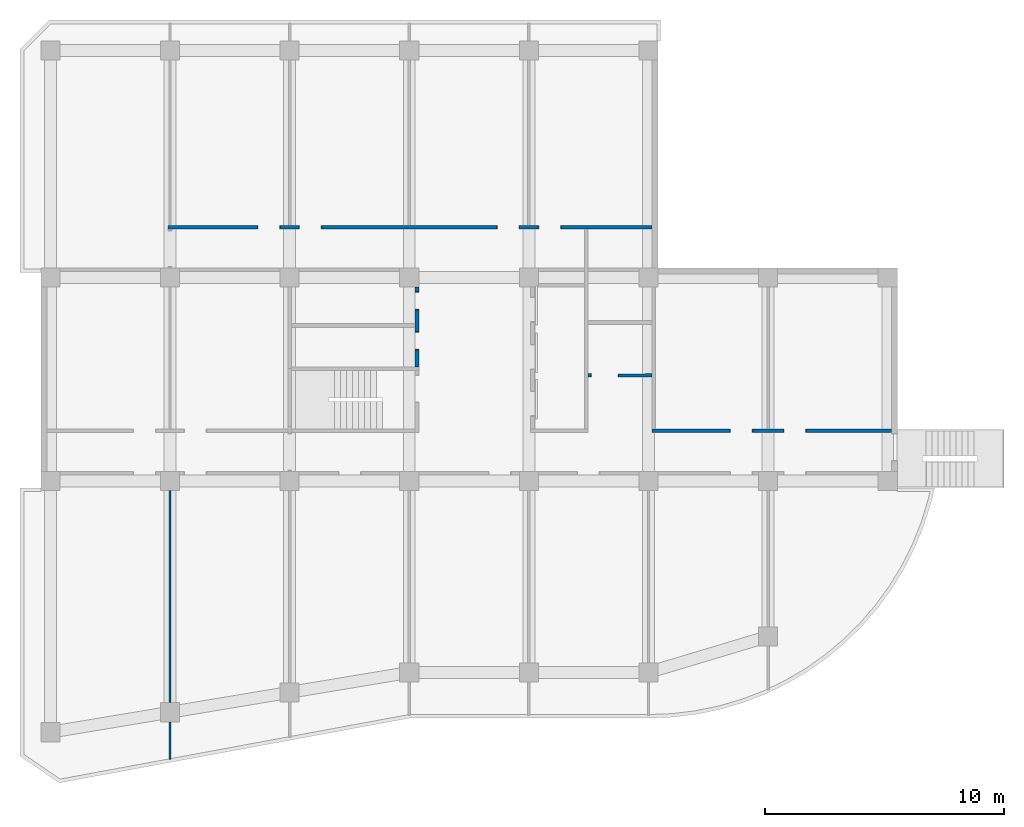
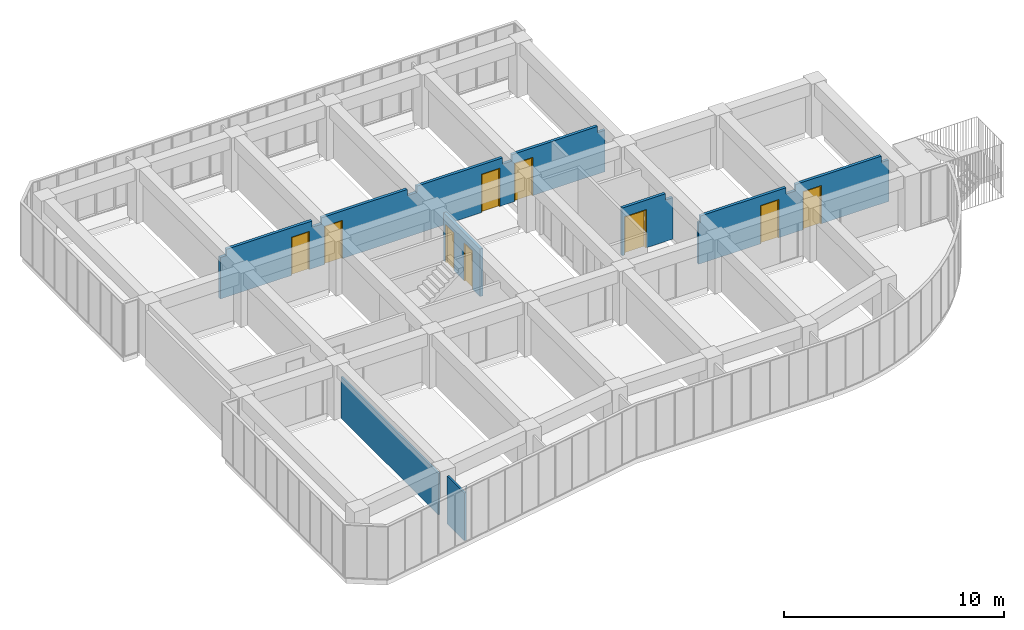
# One storey, part 4 of 5: 9 doors, 5 walls, 9 openings.
"""IFC2X3 building model written with IfcOpenShell, lengths in millimetres."""

from ifc_helpers import new_model, entity, si_unit, converted_unit, derived_unit, money_unit, direction, frame, origin_with_axes, place, context, subcontext, project, spatial, open_shell, faceted_brep, surface_model, source, transform, mapped, material, type_object, element, fill, save


model = new_model("IFC2X3")

# Units and contexts
model_context = context("Model", 3, precision=0.01, world=origin_with_axes(), true_north=direction((0.0, 1.0)))
body_context = subcontext(model_context, "Body", "Model", "MODEL_VIEW")
ifc_project = project(units=[si_unit("LENGTHUNIT", "METRE", prefix="MILLI"), si_unit("AREAUNIT", "SQUARE_METRE"), si_unit("VOLUMEUNIT", "CUBIC_METRE"), converted_unit("PLANEANGLEUNIT", "DEGREE", entity("IfcPlaneAngleMeasure", 0.0174532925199), si_unit("PLANEANGLEUNIT", "RADIAN"), dimensions=[0, 0, 0, 0, 0, 0, 0]), si_unit("SOLIDANGLEUNIT", "STERADIAN"), money_unit("JPY"), converted_unit("TIMEUNIT", "Year", entity("IfcTimeMeasure", 31556926.0), si_unit("TIMEUNIT", "SECOND"), dimensions=[0, 0, 1, 0, 0, 0, 0]), si_unit("MASSUNIT", "GRAM", prefix="KILO"), si_unit("THERMODYNAMICTEMPERATUREUNIT", "DEGREE_CELSIUS"), si_unit("LUMINOUSINTENSITYUNIT", "LUMEN"), si_unit("ENERGYUNIT", "JOULE", prefix="MEGA"), derived_unit("THERMALCONDUCTANCEUNIT", [(si_unit("POWERUNIT", "WATT"), 1), (si_unit("LENGTHUNIT", "METRE"), -1), (si_unit("THERMODYNAMICTEMPERATUREUNIT", "KELVIN"), -1)]), derived_unit("SPECIFICHEATCAPACITYUNIT", [(si_unit("ENERGYUNIT", "JOULE"), 1), (si_unit("MASSUNIT", "GRAM", prefix="KILO"), -1), (si_unit("THERMODYNAMICTEMPERATUREUNIT", "KELVIN"), -1)]), derived_unit("MASSDENSITYUNIT", [(si_unit("MASSUNIT", "GRAM", prefix="KILO"), 1), (si_unit("VOLUMEUNIT", "CUBIC_METRE"), -1)])], contexts=[model_context])

# Site, building, storey
site_placement = place(None, origin_with_axes())
site = spatial("IfcSite", under=ifc_project, at=site_placement, Name="サイト", CompositionType="ELEMENT")
building_placement = place(site_placement, origin_with_axes())
building = spatial("IfcBuilding", under=site, at=building_placement, Name="建築", CompositionType="ELEMENT")
storey_placement = place(building_placement, frame((0.0, 0.0, 9000.0), z_axis=(0.0, 0.0, 1.0), x_axis=(1.0, 0.0, 0.0)))
storey = spatial("IfcBuildingStorey", under=building, at=storey_placement, Name="4FL", CompositionType="ELEMENT", Elevation=9000.0)

# Wall, openings, doors
ifc_material_1 = material(Name="コンクリート")
wall_type_1 = type_object("IfcWallType", Name="コンクリート 150", PredefinedType="NOTDEFINED")
wall_1_placement = place(storey_placement, frame((25275.0000022, 10600.0, 0.0), z_axis=(0.0, 0.0, 1.0), x_axis=(-1.0, 0.0, 0.0)))
wall_1 = element("IfcWall", 1, at=wall_1_placement, inside=storey, type_object=wall_type_1, material=ifc_material_1, Name="4FLW9", context=body_context, shape_type="Brep", body=[
    faceted_brep([(16620.0000022, -75.0, 2130.0), (16620.0000022, -75.0, 0.0), (20350.0000022, -75.0, 0.0), (20350.0000022, -75.0, 2300.0), (20025.0000022, -75.0, 2300.0), (20025.0000022, -75.0, 2650.0), (15525.0000022, -75.0, 2650.0), (15525.0000022, -75.0, 2300.0), (15025.0000022, -75.0, 2300.0), (15025.0000022, -75.0, 2650.0), (10525.0000022, -75.0, 2650.0), (10525.0000022, -75.0, 2300.0), (10025.0000022, -75.0, 2300.0), (10025.0000022, -75.0, 2650.0), (5525.00000218, -75.0, 2650.0), (5525.00000218, -75.0, 2300.0), (5025.00000218, -75.0, 2300.0), (5025.00000218, -75.0, 2650.0), (525.000002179, -75.0, 2650.0), (525.000002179, -75.0, 2300.0), (125.0, -75.0, 2300.0), (125.0, -75.0, 0.0), (3930.00000218, -75.0, 0.0), (3930.00000218, -75.0, 2130.0), (4890.00000218, -75.0, 2130.0), (4890.00000218, -75.0, 0.0), (5660.00000218, -75.0, 0.0), (5660.00000218, -75.0, 2130.0), (6620.00000218, -75.0, 2130.0), (6620.00000218, -75.0, 0.0), (13930.0000022, -75.0, 0.0), (13930.0000022, -75.0, 2130.0), (14890.0000022, -75.0, 2130.0), (14890.0000022, -75.0, 0.0), (15660.0000022, -75.0, 0.0), (15660.0000022, -75.0, 2130.0), (16620.0000022, 75.0, 2130.0), (16620.0000022, 75.0, 0.0), (20350.0000022, 75.0, 0.0), (20350.0000022, 75.0, 2300.0), (20025.0000022, 75.0, 2300.0), (20025.0000022, 75.0, 2650.0), (15525.0000022, 75.0, 2650.0), (15525.0000022, 75.0, 2300.0), (15025.0000022, 75.0, 2300.0), (15025.0000022, 75.0, 2650.0), (10525.0000022, 75.0, 2650.0), (10525.0000022, 75.0, 2300.0), (10025.0000022, 75.0, 2300.0), (10025.0000022, 75.0, 2650.0), (5525.00000218, 75.0, 2650.0), (5525.00000218, 75.0, 2300.0), (5025.00000218, 75.0, 2300.0), (5025.00000218, 75.0, 2650.0), (525.000002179, 75.0, 2650.0), (525.000002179, 75.0, 2300.0), (125.0, 75.0, 2300.0), (125.0, 75.0, 0.0), (3930.00000218, 75.0, 0.0), (3930.00000218, 75.0, 2130.0), (4890.00000218, 75.0, 2130.0), (4890.00000218, 75.0, 0.0), (5660.00000218, 75.0, 0.0), (5660.00000218, 75.0, 2130.0), (6620.00000218, 75.0, 2130.0), (6620.00000218, 75.0, 0.0), (13930.0000022, 75.0, 0.0), (13930.0000022, 75.0, 2130.0), (14890.0000022, 75.0, 2130.0), (14890.0000022, 75.0, 0.0), (15660.0000022, 75.0, 0.0), (15660.0000022, 75.0, 2130.0)], [[[0, 1, 2, 3, 4, 5, 6, 7, 8, 9, 10, 11, 12, 13, 14, 15, 16, 17, 18, 19, 20, 21, 22, 23, 24, 25, 26, 27, 28, 29, 30, 31, 32, 33, 34, 35]], [[1, 0, 36, 37]], [[1, 37, 38, 2]], [[38, 39, 3, 2]], [[40, 4, 3, 39]], [[40, 41, 5, 4]], [[6, 5, 41, 42]], [[43, 7, 6, 42]], [[44, 8, 7, 43]], [[44, 45, 9, 8]], [[10, 9, 45, 46]], [[47, 11, 10, 46]], [[48, 12, 11, 47]], [[48, 49, 13, 12]], [[14, 13, 49, 50]], [[51, 15, 14, 50]], [[52, 16, 15, 51]], [[52, 53, 17, 16]], [[53, 54, 18, 17]], [[55, 19, 18, 54]], [[55, 56, 20, 19]], [[21, 20, 56, 57]], [[21, 57, 58, 22]], [[58, 59, 23, 22]], [[59, 60, 24, 23]], [[60, 61, 25, 24]], [[62, 26, 25, 61]], [[63, 27, 26, 62]], [[64, 28, 27, 63]], [[65, 29, 28, 64]], [[30, 29, 65, 66]], [[30, 66, 67, 31]], [[31, 67, 68, 32]], [[32, 68, 69, 33]], [[70, 34, 33, 69]], [[35, 34, 70, 71]], [[0, 35, 71, 36]], [[71, 70, 69, 68, 67, 66, 65, 64, 63, 62, 61, 60, 59, 58, 57, 56, 55, 54, 53, 52, 51, 50, 49, 48, 47, 46, 45, 44, 43, 42, 41, 40, 39, 38, 37, 36]]]),
])
opening_1_placement = place(wall_1_placement, frame((6140.00000218, 0.0, 0.0), z_axis=(0.0, 0.0, 1.0), x_axis=(1.0, 0.0, 0.0)))
opening_1 = element("IfcOpeningElement", 2, at=opening_1_placement, cuts=wall_1, Name="4FLSD3", context=body_context, shape_type="Brep", body=[
    faceted_brep([(480.0, 160.0, 0.0), (480.0, 160.0, 2130.0), (480.0, -160.0, 2130.0), (480.0, -160.0, 0.0), (-480.0, 160.0, 0.0), (-480.0, 160.0, 2130.0), (-480.0, -160.0, 2130.0), (-480.0, -160.0, 0.0)], [[[0, 1, 2, 3]], [[0, 4, 5, 1]], [[1, 5, 6, 2]], [[3, 2, 6, 7]], [[4, 0, 3, 7]], [[5, 4, 7, 6]]]),
])
opening_2_placement = place(wall_1_placement, frame((4410.00000218, 0.0, 0.0), z_axis=(0.0, 0.0, 1.0), x_axis=(1.0, 0.0, 0.0)))
opening_2 = element("IfcOpeningElement", 3, at=opening_2_placement, cuts=wall_1, Name="4FLSD4", context=body_context, shape_type="Brep", body=[
    faceted_brep([(-480.0, -160.0, 0.0), (-480.0, -160.0, 2130.0), (-480.0, 160.0, 2130.0), (-480.0, 160.0, 0.0), (480.0, -160.0, 0.0), (480.0, -160.0, 2130.0), (480.0, 160.0, 2130.0), (480.0, 160.0, 0.0)], [[[0, 1, 2, 3]], [[0, 4, 5, 1]], [[1, 5, 6, 2]], [[3, 2, 6, 7]], [[4, 0, 3, 7]], [[5, 4, 7, 6]]]),
])
opening_3_placement = place(wall_1_placement, frame((14410.0000022, 0.0, 0.0), z_axis=(0.0, 0.0, 1.0), x_axis=(1.0, 0.0, 0.0)))
opening_3 = element("IfcOpeningElement", 4, at=opening_3_placement, cuts=wall_1, Name="4FLSD5", context=body_context, shape_type="Brep", body=[
    faceted_brep([(-480.0, -160.0, 0.0), (-480.0, -160.0, 2130.0), (-480.0, 160.0, 2130.0), (-480.0, 160.0, 0.0), (480.0, -160.0, 0.0), (480.0, -160.0, 2130.0), (480.0, 160.0, 2130.0), (480.0, 160.0, 0.0)], [[[0, 1, 2, 3]], [[0, 4, 5, 1]], [[1, 5, 6, 2]], [[3, 2, 6, 7]], [[4, 0, 3, 7]], [[5, 4, 7, 6]]]),
])
opening_4_placement = place(wall_1_placement, frame((16140.0000022, 0.0, 0.0), z_axis=(0.0, 0.0, 1.0), x_axis=(1.0, 0.0, 0.0)))
opening_4 = element("IfcOpeningElement", 5, at=opening_4_placement, cuts=wall_1, Name="4FLSD6", context=body_context, shape_type="Brep", body=[
    faceted_brep([(480.0, 160.0, 0.0), (480.0, 160.0, 2130.0), (480.0, -160.0, 2130.0), (480.0, -160.0, 0.0), (-480.0, 160.0, 0.0), (-480.0, 160.0, 2130.0), (-480.0, -160.0, 2130.0), (-480.0, -160.0, 0.0)], [[[0, 1, 2, 3]], [[0, 4, 5, 1]], [[1, 5, 6, 2]], [[3, 2, 6, 7]], [[4, 0, 3, 7]], [[5, 4, 7, 6]]]),
])
door_style_1 = type_object("IfcDoorStyle", Name="片開き戸", ConstructionType="NOTDEFINED", OperationType="NOTDEFINED", ParameterTakesPrecedence=False, Sizeable=False)
shared_shape_1 = source(origin_with_axes(), body_context, "Body", "SurfaceModel", [
    surface_model("IfcShellBasedSurfaceModel", [(-450.0, 85.0, 0.0), (-450.0, 85.0, 2100.0), (450.0, 85.0, 2100.0), (450.0, 85.0, 0.0)], [open_shell([[[0, 1, 2, 3]]])]),
    surface_model("IfcShellBasedSurfaceModel", [(-480.0, 160.0, 0.0), (-480.0, 160.0, 2130.0), (480.0, 160.0, 2130.0), (480.0, 160.0, 0.0), (450.0, 160.0, 0.0), (450.0, 160.0, 2100.0), (-450.0, 160.0, 2100.0), (-450.0, 160.0, 0.0)], [open_shell([[[0, 1, 2, 3, 4, 5, 6, 7]]])]),
    surface_model("IfcShellBasedSurfaceModel", [(-480.0, 10.0, 0.0), (-480.0, 10.0, 2130.0), (480.0, 10.0, 2130.0), (480.0, 10.0, 0.0), (450.0, 10.0, 0.0), (450.0, 10.0, 2100.0), (-450.0, 10.0, 2100.0), (-450.0, 10.0, 0.0)], [open_shell([[[0, 1, 2, 3, 4, 5, 6, 7]]])]),
    surface_model("IfcShellBasedSurfaceModel", [(-450.0, 160.0, 0.0), (-450.0, 160.0, 2100.0), (-450.0, 10.0, 2100.0), (-450.0, 10.0, 0.0), (450.0, 160.0, 2100.0), (450.0, 10.0, 2100.0), (-480.0, 160.0, 0.0), (-480.0, 10.0, 0.0), (450.0, 160.0, 0.0), (450.0, 10.0, 0.0), (-480.0, 160.0, 2130.0), (-480.0, 10.0, 2130.0), (480.0, 160.0, 0.0), (480.0, 10.0, 0.0), (480.0, 160.0, 2130.0), (480.0, 10.0, 2130.0)], [open_shell([[[0, 1, 2, 3]], [[1, 4, 5, 2]], [[6, 0, 3, 7]], [[4, 8, 9, 5]], [[10, 6, 7, 11]], [[8, 12, 13, 9]], [[14, 10, 11, 15]], [[12, 14, 15, 13]]])]),
])
door_1_placement = place(opening_4_placement, frame((450.0, 0.0, 0.0), z_axis=(0.0, 0.0, 1.0), x_axis=(-1.0, 0.0, 0.0)))
door_1 = element("IfcDoor", 6, at=door_1_placement, inside=storey, type_object=door_style_1, Name="4FLSD6", OverallHeight=2165.0, OverallWidth=1030.0, context=body_context, shape_type="MappedRepresentation", body=[
    mapped(shared_shape_1, transform((450.0, -85.0, 0.0))),
])
fill(opening_4, door_1)
shared_shape_2 = source(origin_with_axes(), body_context, "Body", "SurfaceModel", [
    surface_model("IfcShellBasedSurfaceModel", [(-450.0, -85.0, 0.0), (-450.0, -85.0, 2100.0), (450.0, -85.0, 2100.0), (450.0, -85.0, 0.0)], [open_shell([[[0, 1, 2, 3]]])]),
    surface_model("IfcShellBasedSurfaceModel", [(-480.0, -10.0, 0.0), (-480.0, -10.0, 2130.0), (480.0, -10.0, 2130.0), (480.0, -10.0, 0.0), (450.0, -10.0, 0.0), (450.0, -10.0, 2100.0), (-450.0, -10.0, 2100.0), (-450.0, -10.0, 0.0)], [open_shell([[[0, 1, 2, 3, 4, 5, 6, 7]]])]),
    surface_model("IfcShellBasedSurfaceModel", [(-480.0, -160.0, 0.0), (-480.0, -160.0, 2130.0), (480.0, -160.0, 2130.0), (480.0, -160.0, 0.0), (450.0, -160.0, 0.0), (450.0, -160.0, 2100.0), (-450.0, -160.0, 2100.0), (-450.0, -160.0, 0.0)], [open_shell([[[0, 1, 2, 3, 4, 5, 6, 7]]])]),
    surface_model("IfcShellBasedSurfaceModel", [(-450.0, -10.0, 0.0), (-450.0, -10.0, 2100.0), (-450.0, -160.0, 2100.0), (-450.0, -160.0, 0.0), (450.0, -10.0, 2100.0), (450.0, -160.0, 2100.0), (-480.0, -10.0, 0.0), (-480.0, -160.0, 0.0), (450.0, -10.0, 0.0), (450.0, -160.0, 0.0), (-480.0, -10.0, 2130.0), (-480.0, -160.0, 2130.0), (480.0, -10.0, 0.0), (480.0, -160.0, 0.0), (480.0, -10.0, 2130.0), (480.0, -160.0, 2130.0)], [open_shell([[[0, 1, 2, 3]], [[1, 4, 5, 2]], [[6, 0, 3, 7]], [[4, 8, 9, 5]], [[10, 6, 7, 11]], [[8, 12, 13, 9]], [[14, 10, 11, 15]], [[12, 14, 15, 13]]])]),
])
door_2_placement = place(opening_1_placement, frame((450.0, 0.0, 0.0), z_axis=(0.0, 0.0, 1.0), x_axis=(-1.0, 0.0, 0.0)))
door_2 = element("IfcDoor", 7, at=door_2_placement, inside=storey, type_object=door_style_1, Name="4FLSD3", OverallHeight=2165.0, OverallWidth=1030.0, context=body_context, shape_type="MappedRepresentation", body=[
    mapped(shared_shape_2, transform((450.0, 85.0, 0.0))),
])
fill(opening_1, door_2)
shared_shape_3 = source(origin_with_axes(), body_context, "Body", "SurfaceModel", [
    surface_model("IfcShellBasedSurfaceModel", [(450.0, -85.0, 0.0), (-450.0, -85.0, 0.0), (-450.0, -85.0, 2100.0), (450.0, -85.0, 2100.0)], [open_shell([[[0, 1, 2, 3]]])]),
    surface_model("IfcShellBasedSurfaceModel", [(480.0, -10.0, 0.0), (450.0, -10.0, 0.0), (450.0, -10.0, 2100.0), (-450.0, -10.0, 2100.0), (-450.0, -10.0, 0.0), (-480.0, -10.0, 0.0), (-480.0, -10.0, 2130.0), (480.0, -10.0, 2130.0)], [open_shell([[[0, 1, 2, 3, 4, 5, 6, 7]]])]),
    surface_model("IfcShellBasedSurfaceModel", [(480.0, -160.0, 0.0), (450.0, -160.0, 0.0), (450.0, -160.0, 2100.0), (-450.0, -160.0, 2100.0), (-450.0, -160.0, 0.0), (-480.0, -160.0, 0.0), (-480.0, -160.0, 2130.0), (480.0, -160.0, 2130.0)], [open_shell([[[0, 1, 2, 3, 4, 5, 6, 7]]])]),
    surface_model("IfcShellBasedSurfaceModel", [(450.0, -10.0, 0.0), (450.0, -160.0, 0.0), (450.0, -160.0, 2100.0), (450.0, -10.0, 2100.0), (480.0, -10.0, 0.0), (480.0, -160.0, 0.0), (-450.0, -160.0, 2100.0), (-450.0, -10.0, 2100.0), (480.0, -10.0, 2130.0), (480.0, -160.0, 2130.0), (-450.0, -160.0, 0.0), (-450.0, -10.0, 0.0), (-480.0, -10.0, 2130.0), (-480.0, -160.0, 2130.0), (-480.0, -160.0, 0.0), (-480.0, -10.0, 0.0)], [open_shell([[[0, 1, 2, 3]], [[4, 5, 1, 0]], [[3, 2, 6, 7]], [[8, 9, 5, 4]], [[7, 6, 10, 11]], [[12, 13, 9, 8]], [[11, 10, 14, 15]], [[15, 14, 13, 12]]])]),
])
door_3_placement = place(opening_2_placement, frame((450.0, 0.0, 0.0), z_axis=(0.0, 0.0, 1.0), x_axis=(-1.0, 0.0, 0.0)))
door_3 = element("IfcDoor", 8, at=door_3_placement, inside=storey, type_object=door_style_1, Name="4FLSD4", OverallHeight=2165.0, OverallWidth=1030.0, context=body_context, shape_type="MappedRepresentation", body=[
    mapped(shared_shape_3, transform((450.0, 85.0, 0.0))),
])
fill(opening_2, door_3)
shared_shape_4 = source(origin_with_axes(), body_context, "Body", "SurfaceModel", [
    surface_model("IfcShellBasedSurfaceModel", [(450.0, 85.0, 0.0), (-450.0, 85.0, 0.0), (-450.0, 85.0, 2100.0), (450.0, 85.0, 2100.0)], [open_shell([[[0, 1, 2, 3]]])]),
    surface_model("IfcShellBasedSurfaceModel", [(480.0, 160.0, 0.0), (450.0, 160.0, 0.0), (450.0, 160.0, 2100.0), (-450.0, 160.0, 2100.0), (-450.0, 160.0, 0.0), (-480.0, 160.0, 0.0), (-480.0, 160.0, 2130.0), (480.0, 160.0, 2130.0)], [open_shell([[[0, 1, 2, 3, 4, 5, 6, 7]]])]),
    surface_model("IfcShellBasedSurfaceModel", [(480.0, 10.0, 0.0), (450.0, 10.0, 0.0), (450.0, 10.0, 2100.0), (-450.0, 10.0, 2100.0), (-450.0, 10.0, 0.0), (-480.0, 10.0, 0.0), (-480.0, 10.0, 2130.0), (480.0, 10.0, 2130.0)], [open_shell([[[0, 1, 2, 3, 4, 5, 6, 7]]])]),
    surface_model("IfcShellBasedSurfaceModel", [(450.0, 160.0, 0.0), (450.0, 10.0, 0.0), (450.0, 10.0, 2100.0), (450.0, 160.0, 2100.0), (480.0, 160.0, 0.0), (480.0, 10.0, 0.0), (-450.0, 10.0, 2100.0), (-450.0, 160.0, 2100.0), (480.0, 160.0, 2130.0), (480.0, 10.0, 2130.0), (-450.0, 10.0, 0.0), (-450.0, 160.0, 0.0), (-480.0, 160.0, 2130.0), (-480.0, 10.0, 2130.0), (-480.0, 10.0, 0.0), (-480.0, 160.0, 0.0)], [open_shell([[[0, 1, 2, 3]], [[4, 5, 1, 0]], [[3, 2, 6, 7]], [[8, 9, 5, 4]], [[7, 6, 10, 11]], [[12, 13, 9, 8]], [[11, 10, 14, 15]], [[15, 14, 13, 12]]])]),
])
door_4_placement = place(opening_3_placement, frame((450.0, 0.0, 0.0), z_axis=(0.0, 0.0, 1.0), x_axis=(-1.0, 0.0, 0.0)))
door_4 = element("IfcDoor", 9, at=door_4_placement, inside=storey, type_object=door_style_1, Name="4FLSD5", OverallHeight=2165.0, OverallWidth=1030.0, context=body_context, shape_type="MappedRepresentation", body=[
    mapped(shared_shape_4, transform((450.0, -85.0, 0.0))),
])
fill(opening_3, door_4)

wall_2_placement = place(storey_placement, frame((25224.9999795, 2100.0, 0.0), z_axis=(0.0, 0.0, 1.0), x_axis=(1.0, 0.0, 0.0)))
wall_2 = element("IfcWall", 10, at=wall_2_placement, inside=storey, type_object=wall_type_1, material=ifc_material_1, Name="4FLW7", context=body_context, shape_type="Brep", body=[
    faceted_brep([(3180.0000205, 75.0, 2130.0), (3180.0000205, 75.0, 0.0), (-75.0, 75.0, 0.0), (-75.0, 75.0, 2300.0), (25.0000205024, 75.0, 2300.0), (25.0000205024, 75.0, 2650.0), (4525.0000205, 75.0, 2650.0), (4525.0000205, 75.0, 2300.0), (5025.0000205, 75.0, 2300.0), (5025.0000205, 75.0, 2650.0), (9525.0000205, 75.0, 2650.0), (9525.0000205, 75.0, 2300.0), (9924.99998593, 75.0, 2300.0), (9924.99998593, 75.0, 0.0), (6370.0000205, 75.0, 0.0), (6370.0000205, 75.0, 2130.0), (5410.0000205, 75.0, 2130.0), (5410.0000205, 75.0, 0.0), (4140.0000205, 75.0, 0.0), (4140.0000205, 75.0, 2130.0), (3180.0000205, -75.0, 2130.0), (3180.0000205, -75.0, 0.0), (-75.0, -75.0, 0.0), (-75.0, -75.0, 2300.0), (25.0000205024, -75.0, 2300.0), (25.0000205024, -75.0, 2650.0), (4525.0000205, -75.0, 2650.0), (4525.0000205, -75.0, 2300.0), (5025.0000205, -75.0, 2300.0), (5025.0000205, -75.0, 2650.0), (9525.0000205, -75.0, 2650.0), (9525.0000205, -75.0, 2300.0), (9924.99998593, -75.0, 2300.0), (9924.99998593, -75.0, 0.0), (6370.0000205, -75.0, 0.0), (6370.0000205, -75.0, 2130.0), (5410.0000205, -75.0, 2130.0), (5410.0000205, -75.0, 0.0), (4140.0000205, -75.0, 0.0), (4140.0000205, -75.0, 2130.0)], [[[0, 1, 2, 3, 4, 5, 6, 7, 8, 9, 10, 11, 12, 13, 14, 15, 16, 17, 18, 19]], [[1, 0, 20, 21]], [[1, 21, 22, 2]], [[3, 2, 22, 23]], [[3, 23, 24, 4]], [[5, 4, 24, 25]], [[25, 26, 6, 5]], [[6, 26, 27, 7]], [[7, 27, 28, 8]], [[9, 8, 28, 29]], [[10, 9, 29, 30]], [[10, 30, 31, 11]], [[12, 11, 31, 32]], [[32, 33, 13, 12]], [[14, 13, 33, 34]], [[14, 34, 35, 15]], [[15, 35, 36, 16]], [[16, 36, 37, 17]], [[38, 18, 17, 37]], [[19, 18, 38, 39]], [[0, 19, 39, 20]], [[39, 38, 37, 36, 35, 34, 33, 32, 31, 30, 29, 28, 27, 26, 25, 24, 23, 22, 21, 20]]]),
])
opening_5_placement = place(wall_2_placement, frame((5890.0000205, 0.0, 0.0), z_axis=(0.0, 0.0, 1.0), x_axis=(1.0, 0.0, 0.0)))
opening_5 = element("IfcOpeningElement", 11, at=opening_5_placement, cuts=wall_2, Name="4FLSD8", context=body_context, shape_type="Brep", body=[
    faceted_brep([(480.0, 160.0, 0.0), (480.0, 160.0, 2130.0), (480.0, -160.0, 2130.0), (480.0, -160.0, 0.0), (-480.0, 160.0, 0.0), (-480.0, 160.0, 2130.0), (-480.0, -160.0, 2130.0), (-480.0, -160.0, 0.0)], [[[0, 1, 2, 3]], [[0, 4, 5, 1]], [[1, 5, 6, 2]], [[3, 2, 6, 7]], [[4, 0, 3, 7]], [[5, 4, 7, 6]]]),
])
opening_6_placement = place(wall_2_placement, frame((3660.0000205, 0.0, 0.0), z_axis=(0.0, 0.0, 1.0), x_axis=(1.0, 0.0, 0.0)))
opening_6 = element("IfcOpeningElement", 12, at=opening_6_placement, cuts=wall_2, Name="4FLSD9", context=body_context, shape_type="Brep", body=[
    faceted_brep([(-480.0, -160.0, 0.0), (-480.0, -160.0, 2130.0), (-480.0, 160.0, 2130.0), (-480.0, 160.0, 0.0), (480.0, -160.0, 0.0), (480.0, -160.0, 2130.0), (480.0, 160.0, 2130.0), (480.0, 160.0, 0.0)], [[[0, 1, 2, 3]], [[0, 4, 5, 1]], [[1, 5, 6, 2]], [[3, 2, 6, 7]], [[4, 0, 3, 7]], [[5, 4, 7, 6]]]),
])
door_5_placement = place(opening_6_placement, frame((-450.0, 0.0, 0.0), z_axis=(0.0, 0.0, 1.0), x_axis=(1.0, 0.0, 0.0)))
door_5 = element("IfcDoor", 13, at=door_5_placement, inside=storey, type_object=door_style_1, Name="4FLSD9", OverallHeight=2165.0, OverallWidth=1030.0, context=body_context, shape_type="MappedRepresentation", body=[
    mapped(shared_shape_2, transform((450.0, 85.0, 0.0))),
])
fill(opening_6, door_5)
door_6_placement = place(opening_5_placement, frame((-450.0, 0.0, 0.0), z_axis=(0.0, 0.0, 1.0), x_axis=(1.0, 0.0, 0.0)))
door_6 = element("IfcDoor", 14, at=door_6_placement, inside=storey, type_object=door_style_1, Name="4FLSD8", OverallHeight=2165.0, OverallWidth=1030.0, context=body_context, shape_type="MappedRepresentation", body=[
    mapped(shared_shape_3, transform((450.0, 85.0, 0.0))),
])
fill(opening_5, door_6)

# Wall, opening, door
wall_3_placement = place(storey_placement, frame((22400.0, 4425.000045, 0.0), z_axis=(0.0, 0.0, 1.0), x_axis=(1.0, 0.0, 0.0)))
wall_3 = element("IfcWall", 15, at=wall_3_placement, inside=storey, type_object=wall_type_1, material=ifc_material_1, Name="4FLW8", context=body_context, shape_type="Brep", body=[
    faceted_brep([(2480.0, 75.0, 2130.0), (1355.0, 75.0, 2130.0), (195.0, 75.0, 2130.0), (195.0, 75.0, 0.0), (75.0, 75.0, 0.0), (75.0, 75.0, 2650.0), (2350.0, 75.0, 2650.0), (2350.0, 75.0, 2300.0), (2749.9999795, 75.0, 2300.0), (2749.9999795, 75.0, 0.0), (2480.0, 75.0, 0.0), (2480.0, 55.0, 2130.0), (1355.0, 55.0, 2130.0), (1355.0, -75.0, 2130.0), (195.0, -75.0, 2130.0), (195.0, -75.0, 0.0), (75.0, -75.0, 0.0), (75.0, -75.0, 2650.0), (2350.0, -75.0, 2650.0), (2350.0, -75.0, 2300.0), (2749.9999795, -75.0, 2300.0), (2749.9999795, -75.0, 0.0), (2480.0, 55.0, 0.0), (1355.0, -75.0, 0.0), (1355.0, 55.0, 0.0)], [[[0, 1, 2, 3, 4, 5, 6, 7, 8, 9, 10]], [[1, 0, 11, 12]], [[1, 12, 13, 14, 2]], [[2, 14, 15, 3]], [[15, 16, 4, 3]], [[17, 5, 4, 16]], [[6, 5, 17, 18]], [[6, 18, 19, 7]], [[8, 7, 19, 20]], [[20, 21, 9, 8]], [[22, 10, 9, 21, 23, 24]], [[0, 10, 22, 11]], [[22, 24, 12, 11]], [[12, 24, 23, 13]], [[16, 15, 14, 13, 23, 21, 20, 19, 18, 17]]]),
])
opening_7_placement = place(wall_3_placement, frame((775.0, 0.0, 0.0), z_axis=(0.0, 0.0, 1.0), x_axis=(1.0, 0.0, 0.0)))
opening_7 = element("IfcOpeningElement", 16, at=opening_7_placement, cuts=wall_3, Name="4FLSD4", context=body_context, shape_type="Brep", body=[
    faceted_brep([(1705.0, 225.0, 0.0), (1705.0, 225.0, 2130.0), (1705.0, 55.0, 2130.0), (1705.0, 55.0, 0.0), (-580.0, 225.0, 0.0), (-580.0, 225.0, 2130.0), (-580.0, 55.0, 2130.0), (-580.0, 55.0, 0.0)], [[[0, 1, 2, 3]], [[0, 4, 5, 1]], [[1, 5, 6, 2]], [[3, 2, 6, 7]], [[4, 0, 3, 7]], [[5, 4, 7, 6]]]),
    faceted_brep([(-580.0, -160.0, 0.0), (-580.0, -160.0, 2130.0), (-580.0, 160.0, 2130.0), (-580.0, 160.0, 0.0), (580.0, -160.0, 0.0), (580.0, -160.0, 2130.0), (580.0, 160.0, 2130.0), (580.0, 160.0, 0.0)], [[[0, 1, 2, 3]], [[0, 4, 5, 1]], [[1, 5, 6, 2]], [[3, 2, 6, 7]], [[4, 0, 3, 7]], [[5, 4, 7, 6]]]),
])
door_style_2 = type_object("IfcDoorStyle", Name="片引き戸", ConstructionType="NOTDEFINED", OperationType="NOTDEFINED", ParameterTakesPrecedence=False, Sizeable=False)
shared_shape_5 = source(origin_with_axes(), body_context, "Body", "SurfaceModel", [
    surface_model("IfcShellBasedSurfaceModel", [(-550.0, -0.5, 3.0), (-550.0, -0.5, 2103.0), (550.0, -0.5, 2103.0), (550.0, -0.5, 3.0)], [open_shell([[[0, 1, 2, 3]]])]),
    surface_model("IfcShellBasedSurfaceModel", [(-580.0, -10.0, 0.0), (-580.0, -10.0, 2130.0), (1705.0, -10.0, 2130.0), (1705.0, -10.0, 0.0), (1675.0, -10.0, 0.0), (1675.0, -10.0, 2100.0), (-550.0, -10.0, 2100.0), (-550.0, -10.0, 0.0)], [open_shell([[[0, 1, 2, 3, 4, 5, 6, 7]]])]),
    surface_model("IfcShellBasedSurfaceModel", [(580.0, -30.0, 2130.0), (1705.0, -30.0, 2130.0), (1705.0, -30.0, 0.0), (1675.0, -30.0, 0.0), (1675.0, -30.0, 2100.0), (580.0, -30.0, 2100.0)], [open_shell([[[0, 1, 2, 3, 4, 5]]])]),
    surface_model("IfcShellBasedSurfaceModel", [(-550.0, -10.0, 0.0), (-550.0, -10.0, 2100.0), (-550.0, -30.0, 2100.0), (-550.0, -30.0, 0.0), (1675.0, -10.0, 2100.0), (1675.0, -30.0, 2100.0), (-580.0, -10.0, 0.0), (-580.0, -30.0, 0.0), (1675.0, -10.0, 0.0), (1675.0, -30.0, 0.0), (-580.0, -10.0, 2130.0), (-580.0, -30.0, 2130.0), (1705.0, -10.0, 0.0), (1705.0, -30.0, 0.0), (1705.0, -10.0, 2130.0), (1705.0, -30.0, 2130.0)], [open_shell([[[0, 1, 2, 3]], [[1, 4, 5, 2]], [[6, 0, 3, 7]], [[4, 8, 9, 5]], [[10, 6, 7, 11]], [[8, 12, 13, 9]], [[14, 10, 11, 15]], [[12, 14, 15, 13]]])]),
    surface_model("IfcShellBasedSurfaceModel", [(-580.0, -30.0, 0.0), (-580.0, -30.0, 2130.0), (580.0, -30.0, 2130.0), (580.0, -30.0, 0.0), (550.0, -30.0, 0.0), (550.0, -30.0, 2100.0), (-550.0, -30.0, 2100.0), (-550.0, -30.0, 0.0)], [open_shell([[[0, 1, 2, 3, 4, 5, 6, 7]]])]),
    surface_model("IfcShellBasedSurfaceModel", [(-580.0, -160.0, 0.0), (-580.0, -160.0, 2130.0), (580.0, -160.0, 2130.0), (580.0, -160.0, 0.0), (550.0, -160.0, 0.0), (550.0, -160.0, 2100.0), (-550.0, -160.0, 2100.0), (-550.0, -160.0, 0.0)], [open_shell([[[0, 1, 2, 3, 4, 5, 6, 7]]])]),
    surface_model("IfcShellBasedSurfaceModel", [(-550.0, -30.0, 0.0), (-550.0, -30.0, 2100.0), (-550.0, -160.0, 2100.0), (-550.0, -160.0, 0.0), (550.0, -30.0, 2100.0), (550.0, -160.0, 2100.0), (-580.0, -30.0, 0.0), (-580.0, -160.0, 0.0), (550.0, -30.0, 0.0), (550.0, -160.0, 0.0), (-580.0, -30.0, 2130.0), (-580.0, -160.0, 2130.0), (580.0, -30.0, 0.0), (580.0, -160.0, 0.0), (580.0, -30.0, 2130.0), (580.0, -160.0, 2130.0)], [open_shell([[[0, 1, 2, 3]], [[1, 4, 5, 2]], [[6, 0, 3, 7]], [[4, 8, 9, 5]], [[10, 6, 7, 11]], [[8, 12, 13, 9]], [[14, 10, 11, 15]], [[12, 14, 15, 13]]])]),
])
door_7_placement = place(opening_7_placement, frame((-550.0, 0.0, 0.0), z_axis=(0.0, 0.0, 1.0), x_axis=(1.0, 0.0, 0.0)))
door_7 = element("IfcDoor", 17, at=door_7_placement, inside=storey, type_object=door_style_2, Name="4FLSD4", OverallHeight=2150.0, OverallWidth=1200.0, context=body_context, shape_type="MappedRepresentation", body=[
    mapped(shared_shape_5, transform((550.0, 85.0, 0.0))),
])
fill(opening_7, door_7)

# Wall, openings, doors
wall_4_placement = place(storey_placement, frame((15324.9999955, 4700.0, 0.0), z_axis=(0.0, 0.0, 1.0), x_axis=(0.0, 1.0, 0.0)))
wall_4 = element("IfcWall", 18, at=wall_4_placement, inside=storey, type_object=wall_type_1, material=ifc_material_1, Name="4FLW4", context=body_context, shape_type="Brep", body=[
    faceted_brep([(2455.0, -75.0000031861, 0.0), (2455.0, -75.0000009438, 2130.0), (3215.0, -75.0000009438, 2130.0), (3215.0, -75.0000042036, 0.0), (3400.0, -75.0000044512, 0.0), (3400.0, -75.0000044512, 2650.0), (75.0, -75.0, 2650.0), (75.0, -75.0, 0.0), (780.0, -75.0000009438, 0.0), (780.0, -75.0, 2130.0), (1540.0, -75.0, 2130.0), (1540.0, -75.0000019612, 0.0), (2455.0, 75.0, 0.0), (2455.0, 75.0, 2130.0), (3215.0, 75.0, 2130.0), (3215.0, 75.0, 0.0), (3400.0, 75.0, 0.0), (3400.0, 74.9999957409, 2650.0), (75.0, 75.0, 2650.0), (75.0, 75.0, 0.0), (780.0, 75.0, 0.0), (780.0, 75.0, 2130.0), (1540.0, 75.0, 2130.0), (1540.0, 75.0, 0.0)], [[[0, 1, 2, 3, 4, 5, 6, 7, 8, 9, 10, 11]], [[1, 0, 12, 13]], [[2, 1, 13, 14]], [[3, 2, 14, 15]], [[3, 15, 16, 4]], [[5, 4, 16, 17]], [[17, 18, 6, 5]], [[7, 6, 18, 19]], [[8, 7, 19, 20]], [[8, 20, 21, 9]], [[9, 21, 22, 10]], [[10, 22, 23, 11]], [[12, 0, 11, 23]], [[13, 12, 23, 22, 21, 20, 19, 18, 17, 16, 15, 14]]]),
])
opening_8_placement = place(wall_4_placement, frame((1160.0, 0.0, 0.0), z_axis=(0.0, 0.0, 1.0), x_axis=(1.0, 0.0, 0.0)))
opening_8 = element("IfcOpeningElement", 19, at=opening_8_placement, cuts=wall_4, Name="4FLSD3", context=body_context, shape_type="Brep", body=[
    faceted_brep([(-380.0, -160.0, 0.0), (-380.0, -160.0, 2130.0), (-380.0, 160.0, 2130.0), (-380.0, 160.0, 0.0), (380.0, -160.0, 0.0), (380.0, -160.0, 2130.0), (380.0, 160.0, 2130.0), (380.0, 160.0, 0.0)], [[[0, 1, 2, 3]], [[0, 4, 5, 1]], [[1, 5, 6, 2]], [[3, 2, 6, 7]], [[4, 0, 3, 7]], [[5, 4, 7, 6]]]),
])
opening_9_placement = place(wall_4_placement, frame((2835.0, 0.0, 0.0), z_axis=(0.0, 0.0, 1.0), x_axis=(1.0, 0.0, 0.0)))
opening_9 = element("IfcOpeningElement", 20, at=opening_9_placement, cuts=wall_4, Name="4FLSD3", context=body_context, shape_type="Brep", body=[
    faceted_brep([(-380.0, -160.0, 0.0), (-380.0, -160.0, 2130.0), (-380.0, 160.0, 2130.0), (-380.0, 160.0, 0.0), (380.0, -160.0, 0.0), (380.0, -160.0, 2130.0), (380.0, 160.0, 2130.0), (380.0, 160.0, 0.0)], [[[0, 1, 2, 3]], [[0, 4, 5, 1]], [[1, 5, 6, 2]], [[3, 2, 6, 7]], [[4, 0, 3, 7]], [[5, 4, 7, 6]]]),
])
shared_shape_6 = source(origin_with_axes(), body_context, "Body", "SurfaceModel", [
    surface_model("IfcShellBasedSurfaceModel", [(-350.0, -85.0, 0.0), (-350.0, -85.0, 2100.0), (350.0, -85.0, 2100.0), (350.0, -85.0, 0.0)], [open_shell([[[0, 1, 2, 3]]])]),
    surface_model("IfcShellBasedSurfaceModel", [(-380.0, -10.0, 0.0), (-380.0, -10.0, 2130.0), (380.0, -10.0, 2130.0), (380.0, -10.0, 0.0), (350.0, -10.0, 0.0), (350.0, -10.0, 2100.0), (-350.0, -10.0, 2100.0), (-350.0, -10.0, 0.0)], [open_shell([[[0, 1, 2, 3, 4, 5, 6, 7]]])]),
    surface_model("IfcShellBasedSurfaceModel", [(-380.0, -160.0, 0.0), (-380.0, -160.0, 2130.0), (380.0, -160.0, 2130.0), (380.0, -160.0, 0.0), (350.0, -160.0, 0.0), (350.0, -160.0, 2100.0), (-350.0, -160.0, 2100.0), (-350.0, -160.0, 0.0)], [open_shell([[[0, 1, 2, 3, 4, 5, 6, 7]]])]),
    surface_model("IfcShellBasedSurfaceModel", [(-350.0, -10.0, 0.0), (-350.0, -10.0, 2100.0), (-350.0, -160.0, 2100.0), (-350.0, -160.0, 0.0), (350.0, -10.0, 2100.0), (350.0, -160.0, 2100.0), (-380.0, -10.0, 0.0), (-380.0, -160.0, 0.0), (350.0, -10.0, 0.0), (350.0, -160.0, 0.0), (-380.0, -10.0, 2130.0), (-380.0, -160.0, 2130.0), (380.0, -10.0, 0.0), (380.0, -160.0, 0.0), (380.0, -10.0, 2130.0), (380.0, -160.0, 2130.0)], [open_shell([[[0, 1, 2, 3]], [[1, 4, 5, 2]], [[6, 0, 3, 7]], [[4, 8, 9, 5]], [[10, 6, 7, 11]], [[8, 12, 13, 9]], [[14, 10, 11, 15]], [[12, 14, 15, 13]]])]),
])
door_8_placement = place(opening_8_placement, frame((-350.0, 0.0, 0.0), z_axis=(0.0, 0.0, 1.0), x_axis=(1.0, 0.0, 0.0)))
door_8 = element("IfcDoor", 21, at=door_8_placement, inside=storey, type_object=door_style_1, Name="4FLSD3", OverallHeight=2165.0, OverallWidth=830.0, context=body_context, shape_type="MappedRepresentation", body=[
    mapped(shared_shape_6, transform((350.0, 85.0, 0.0))),
])
fill(opening_8, door_8)
door_9_placement = place(opening_9_placement, frame((-350.0, 0.0, 0.0), z_axis=(0.0, 0.0, 1.0), x_axis=(1.0, 0.0, 0.0)))
door_9 = element("IfcDoor", 22, at=door_9_placement, inside=storey, type_object=door_style_1, Name="4FLSD3", OverallHeight=2165.0, OverallWidth=830.0, context=body_context, shape_type="MappedRepresentation", body=[
    mapped(shared_shape_6, transform((350.0, 85.0, 0.0))),
])
fill(opening_9, door_9)

# Wall
ifc_material_2 = material(Name="石膏ボード")
wall_type_2 = type_object("IfcWallType", Name="石膏ボード 100", PredefinedType="NOTDEFINED")
wall_5_placement = place(storey_placement, frame((5000.0, 324.999998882, 0.0), z_axis=(0.0, 0.0, 1.0), x_axis=(0.0, -1.0, 0.0)))
element("IfcWall", 23, at=wall_5_placement, inside=storey, type_object=wall_type_2, material=ifc_material_2, Name="4FLW14", context=body_context, shape_type="Brep", body=[
    faceted_brep([(11974.3149582, 50.0, 0.0), (10391.6666655, 50.0, 0.0), (10391.6666655, 50.0, 2650.0), (11965.0683834, 50.0, 2650.0), (11965.0683834, 50.0, 3000.0), (11974.3149582, 50.0, 3000.0), (11974.3149582, -50.0, 0.0), (10391.6666655, -50.0, 0.0), (10391.6666655, -50.0, 2650.0), (11974.3149582, -50.0, 2650.0), (11974.3149582, 0.0, 2650.0), (11974.3149582, 0.0, 3000.0)], [[[0, 1, 2, 3, 4, 5]], [[6, 7, 1, 0]], [[7, 8, 2, 1]], [[3, 2, 8, 9, 10]], [[4, 3, 10, 11]], [[4, 11, 5]], [[0, 5, 11, 10, 9, 6]], [[9, 8, 7, 6]]]),
    faceted_brep([(9591.66666555, 50.0, 0.0), (724.999998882, 50.0, 0.0), (724.999998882, 50.0, 2300.0), (9591.66666555, 50.0, 2300.0), (9591.66666555, -50.0, 0.0), (724.999998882, -50.0, 0.0), (724.999998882, -50.0, 2300.0), (9591.66666555, -50.0, 2300.0)], [[[0, 1, 2, 3]], [[4, 5, 1, 0]], [[5, 6, 2, 1]], [[3, 2, 6, 7]], [[4, 0, 3, 7]], [[7, 6, 5, 4]]]),
])

save(model, "model.ifc")
